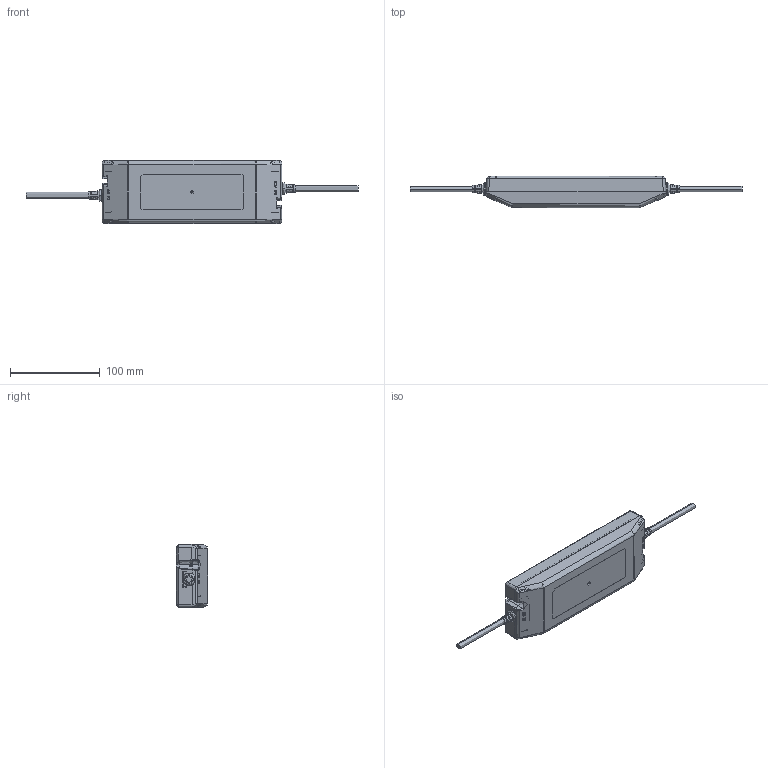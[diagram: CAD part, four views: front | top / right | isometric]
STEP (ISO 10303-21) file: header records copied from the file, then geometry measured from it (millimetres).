
FILE_DESCRIPTION(('OneSpaceDesigner STEP Export'),'2;1');
FILE_NAME('PLN-100.stp','2010-06-11T10:42:33',(''),(''),'OneSpace Designer STEP processor for AP214 (Solid Model)','OneSpace Designer 13.20 11-May-2005 (C) CoCreate Software GmbH','');
FILE_SCHEMA(('AUTOMOTIVE_DESIGN { 1 0 10303 214 1 1 1 1 }'));
Length unit declared in the file: millimetre
Products named in the file (3): MSBR; r.2; PLN-100
Assembly tree (3 placements, depth 2):
  PLN-100
    r.2  x2
    MSBR
Bounding box: 370.41 x 35 x 70.53 mm (x, y, z)
Topology: 2 solids, 4 shells, 1297 faces, 3488 edges, 2190 vertices
Faces by surface type: plane 871, cylinder 234, cone 100, bspline 54, revolution 28, torus 10
Full cylindrical faces by diameter (mm): 2.017 x1
Entity records: 41729 total; most frequent: CARTESIAN_POINT 10953, ORIENTED_EDGE 6304, DIRECTION 4898, EDGE_CURVE 3142, VECTOR 2230, LINE 2230, VERTEX_POINT 1996, AXIS2_PLACEMENT_3D 1322
